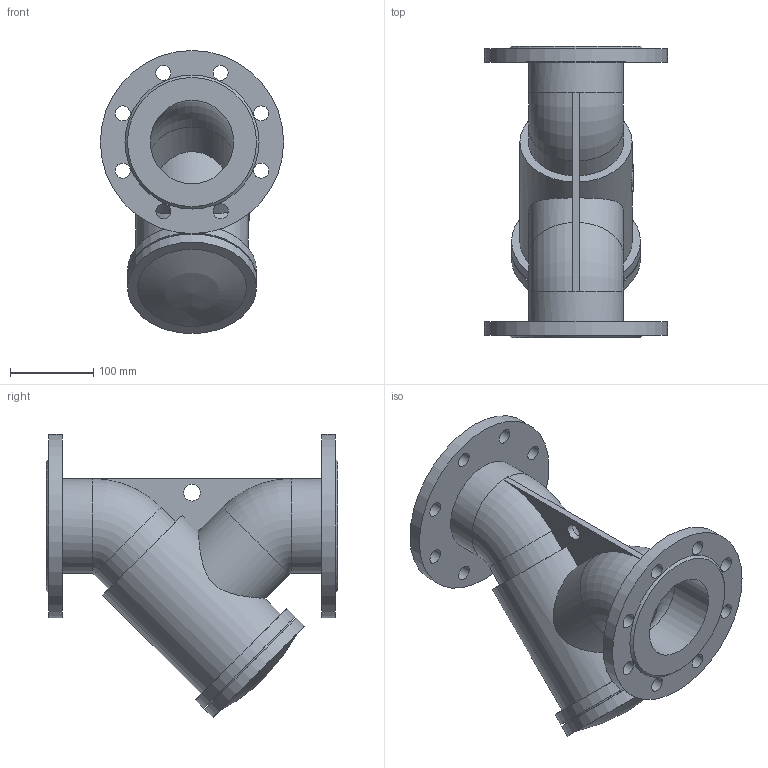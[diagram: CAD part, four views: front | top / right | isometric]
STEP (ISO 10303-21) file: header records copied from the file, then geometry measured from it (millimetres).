
FILE_DESCRIPTION(('STEP AP203'), '1');
FILE_NAME('Ôèëüòð ñåò÷àòûé ôëàíöåâûé 021Y.Z DN100 PN10_PN16', '', ('UNSPECIFIED'), ('UNSPECIFIED'), 'ASCON STEP Converter 1.6', 'ASCON Math Kernel', '');
FILE_SCHEMA(('CONFIG_CONTROL_DESIGN'));
Length unit declared in the file: millimetre
Bounding box: 220 x 350 x 340 mm (x, y, z)
Volume: 4620980 mm3; surface area: 457863.4 mm2
Topology: 1 solids, 1 shells, 75 faces, 171 edges, 110 vertices
Faces by surface type: cylinder 39, plane 29, torus 4, cone 2, sphere 1
Full cylindrical faces by diameter (mm): 18 x16, 20 x1, 100 x4, 114 x2, 135 x1, 143 x1, 155 x2, 220 x2
Entity records: 3570 total; most frequent: CARTESIAN_POINT 1254, DIRECTION 361, ORIENTED_EDGE 272, AXIS2_PLACEMENT_3D 160, EDGE_LOOP 155, EDGE_CURVE 136, VERTEX_POINT 109, FACE_BOUND 91
